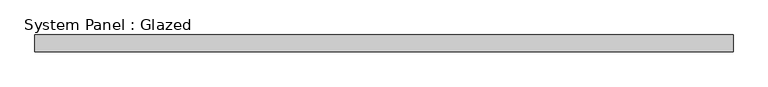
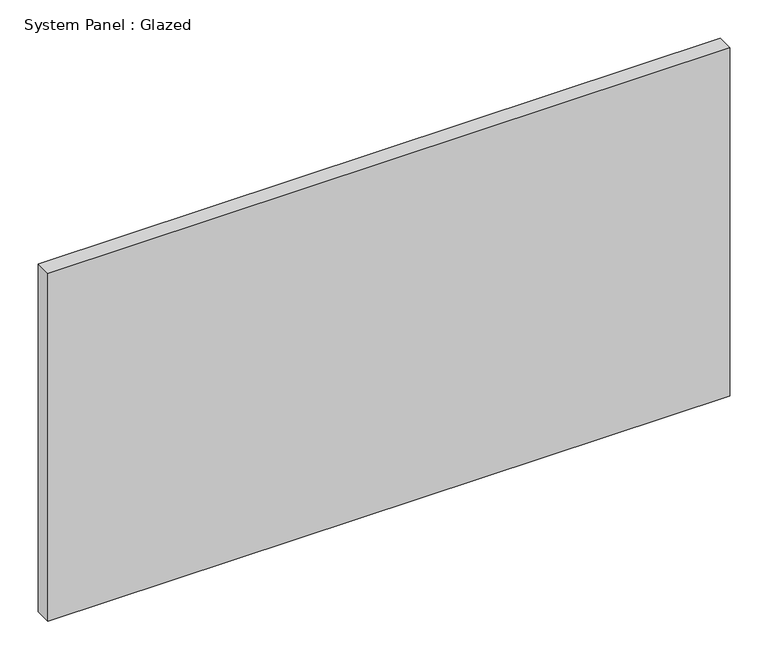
"""IFC4 building model written with IfcOpenShell, lengths in millimetres: plate geometry, System Panel : Glazed."""

from ifc_helpers import new_model, si_unit, origin, origin_with_axes, place, context, project, spatial, polyline, outline, extrude, source, transform, mapped, element, save


def system_panel_glazed_2baacb4b(model_context):
    return source(origin(), model_context, "Body", "SweptSolid", [
        extrude(outline(polyline([(513.7428571, 0.0), (-513.7428571, 0.0), (-513.7428571, 25.0), (513.7428571, 25.0), (513.7428571, 0.0)])), origin_with_axes(), (0.0, 0.0, 1.0), 555.0),
    ])


if __name__ == "__main__":
    model = new_model("IFC4")
    model_context = context("Model", 3, world=origin())
    ifc_project = project(units=[si_unit("LENGTHUNIT", "METRE", prefix="MILLI")], contexts=[model_context])
    site = spatial("IfcSite", under=ifc_project)
    building = spatial("IfcBuilding", under=site)
    placement = place(None, origin())
    system_panel_glazed_shape = system_panel_glazed_2baacb4b(model_context)
    element("IfcPlate", 1, ObjectType="System Panel : Glazed", at=placement, inside=building, context=model_context, shape_type="MappedRepresentation", body=[
        mapped(system_panel_glazed_shape, transform((0.0, 0.0, 0.0), x_axis=(1.0, 0.0, 0.0), y_axis=(0.0, 1.0, 0.0), z_axis=(0.0, 0.0, 1.0))),
    ])
    save(model, "model.ifc")
